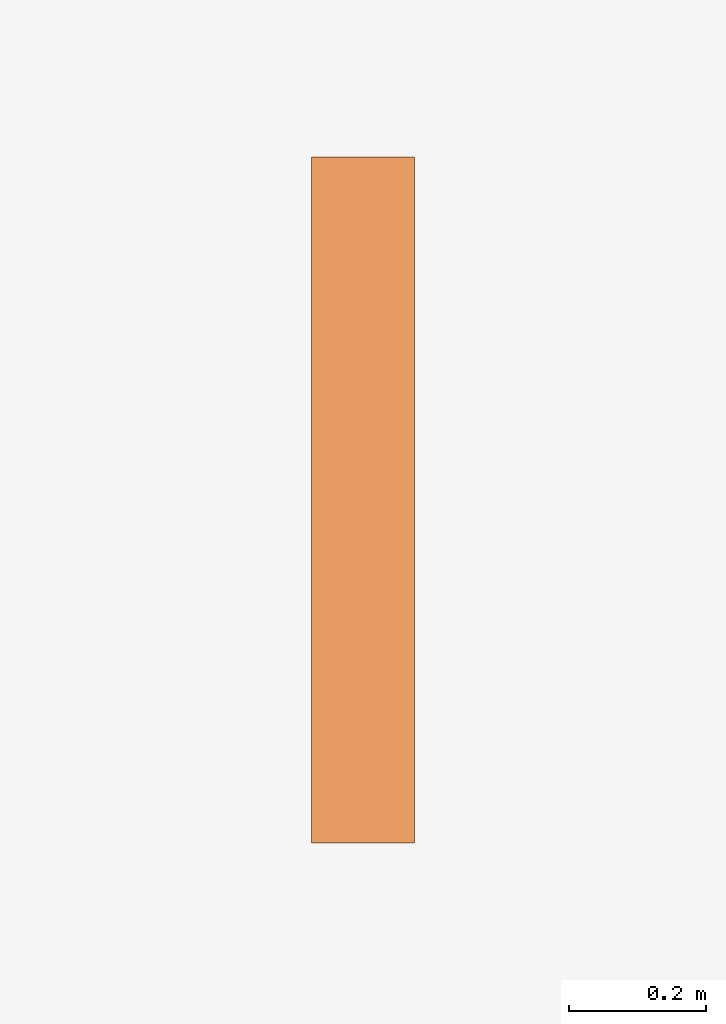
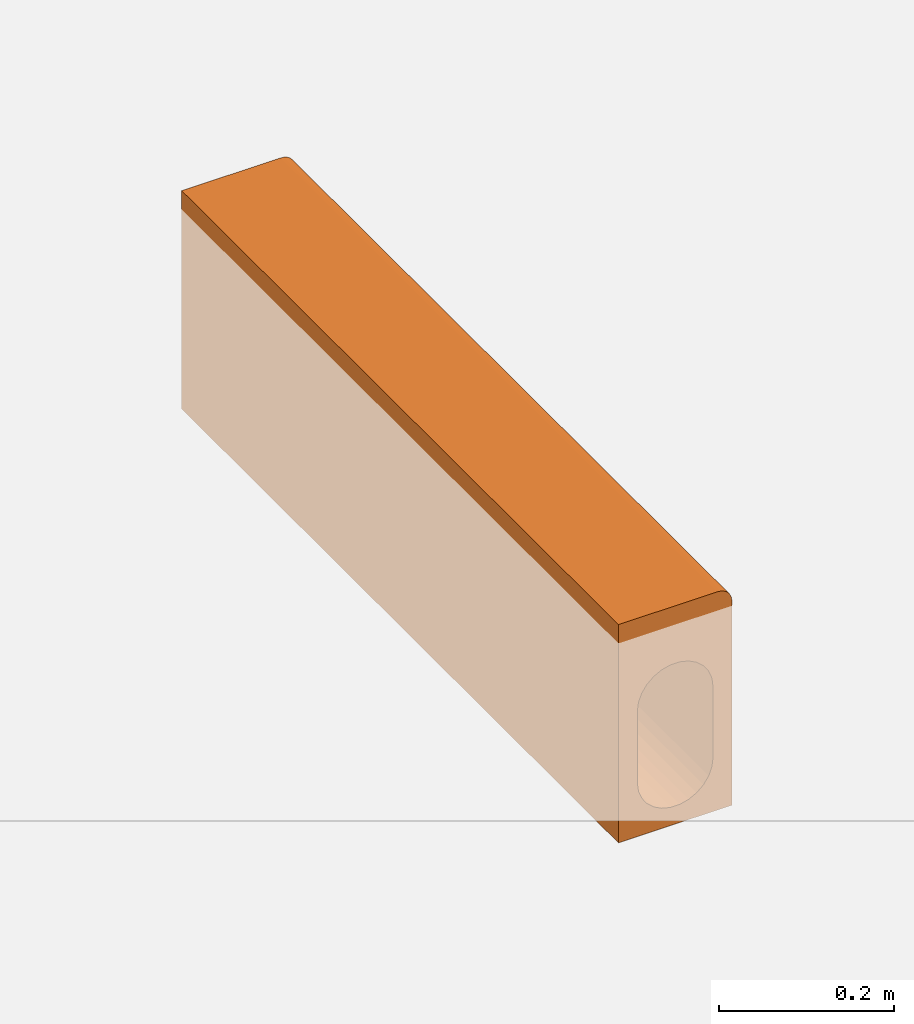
# One storey, part 2 of 2: 1 proxy.
"""IFC2X3 building model written with IfcOpenShell, lengths in millimetres."""

from ifc_helpers import new_model, entity, si_unit, converted_unit, direction, frame, frame_2d, origin, place, context, subcontext, project, spatial, polyline, circle_curve, parameter, trimmed, segment, composite_curve, outline, extrude, source, transform, mapped, material, element, save


model = new_model("IFC2X3")

# Units and contexts
model_context = context("Model", 3, precision=1e-06, world=origin(), true_north=direction((2.0, 6.12303176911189e-17, 1.0)))
context_of_model = context(None, 3, precision=1e-06, world=origin(), true_north=direction((2.0, 6.12303176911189e-17, 1.0)))
body_context = subcontext(model_context, "Body", "Model", "MODEL_VIEW")
ifc_project = project(units=[si_unit("LENGTHUNIT", "METRE", prefix="MILLI"), si_unit("AREAUNIT", "SQUARE_METRE", prefix="MILLI"), si_unit("VOLUMEUNIT", "CUBIC_METRE", prefix="MILLI"), converted_unit("PLANEANGLEUNIT", "DEGREE", entity("IfcRatioMeasure", 0.0174532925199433), si_unit("PLANEANGLEUNIT", "RADIAN"), dimensions=[0, 0, 0, 0, 0, 0, 0]), si_unit("TIMEUNIT", "SECOND")], contexts=[model_context, context_of_model])

# Site, building, storey
site_placement = place(None, origin())
site = spatial("IfcSite", under=ifc_project, at=site_placement, Name="Default", CompositionType="ELEMENT")
building_placement = place(site_placement, origin())
building = spatial("IfcBuilding", under=site, at=building_placement, CompositionType="ELEMENT")
storey_placement = place(building_placement, origin())
storey = spatial("IfcBuildingStorey", under=building, at=storey_placement, Name="Level 1", CompositionType="ELEMENT", Elevation=0.0)

# Proxy
ifc_material = material(Name="ACO Polymer Concrete.")
shared_shape = source(origin(), body_context, "Body", "SweptSolid", [
    extrude(outline(composite_curve([segment(polyline([(-86.1999999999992, -125.8), (44.8000000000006, -125.8)]), True, "CONTINUOUS"), segment(trimmed(circle_curve(frame_2d((44.8000000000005, -106.8), x_axis=(1.0, 0.0)), 19.0), [parameter(270.0)], [parameter(3.56222124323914e-13)], True, "PARAMETER"), True, "CONTINUOUS"), segment(polyline([(63.7999999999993, -106.800000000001), (63.7999999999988, 179.2)]), True, "CONTINUOUS"), segment(polyline([(63.7999999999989, 179.2), (-86.1999999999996, 179.2)]), True, "CONTINUOUS"), segment(polyline([(-86.1999999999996, 179.2), (-86.1999999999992, -125.8)]), True, "CONTINUOUS")], self_intersect=False), holes=[composite_curve([segment(trimmed(circle_curve(frame_2d((-11.2, 104.2), x_axis=(1.0, 0.0)), 49.9999999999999), [parameter(0.0)], [parameter(180.0)], True, "PARAMETER"), False, "CONTINUOUS"), segment(polyline([(38.8, 104.2), (38.8000000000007, 4.19999999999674)]), True, "CONTINUOUS"), segment(trimmed(circle_curve(frame_2d((-11.1999999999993, 4.19999999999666), x_axis=(1.0, 0.0)), 50.0), [parameter(180.0)], [parameter(0.0)], True, "PARAMETER"), False, "CONTINUOUS"), segment(polyline([(-61.1999999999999, 4.19999999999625), (-61.1999999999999, 104.200000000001)]), True, "CONTINUOUS")], self_intersect=False)]), frame((11.1999999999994, 0.0, -100.800000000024), z_axis=(0.0, 1.0, 0.0), x_axis=(1.0, 0.0, 0.0)), (0.0, 0.0, 1.0), 1000.0),
])
proxy_placement = place(storey_placement, frame((-14541.5994818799, -705.326112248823, 0.0)))
element("IfcBuildingElementProxy", 1, at=proxy_placement, inside=storey, material=ifc_material, Name="Civil-Drainage-Channel-ACO-KerbDrain-HB405:4236 - Centre Stone - 1000mm LG:4236 - Centre Stone - 1000mm LG", ObjectType="4236 - Centre Stone - 1000mm LG", CompositionType="ELEMENT", context=body_context, shape_type="MappedRepresentation", body=[
    mapped(shared_shape, transform((0.0, 0.0, 0.0), scale=1.0)),
])

save(model, "model.ifc")
